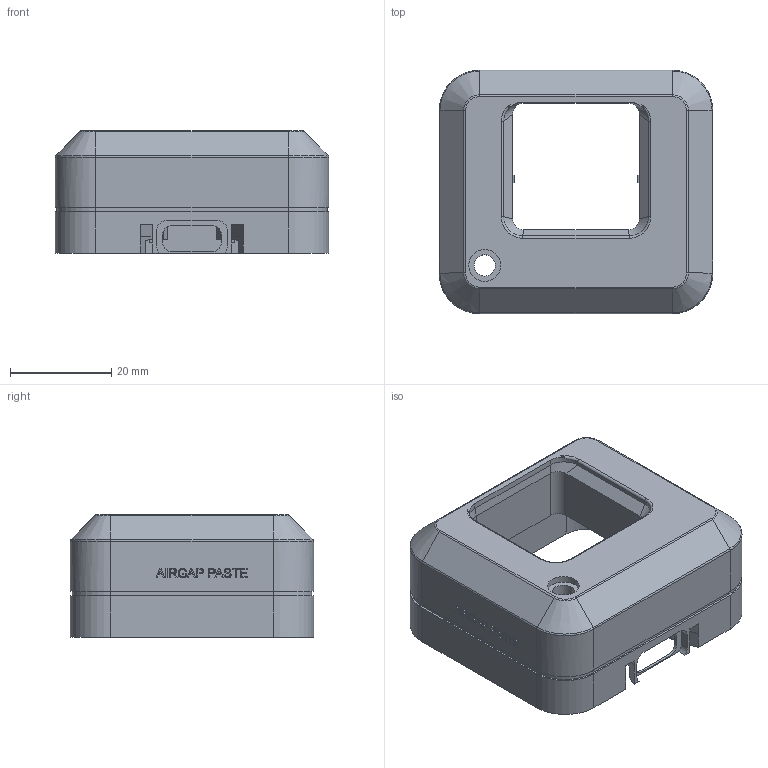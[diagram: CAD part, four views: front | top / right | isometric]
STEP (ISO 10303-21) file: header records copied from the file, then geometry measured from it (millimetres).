
FILE_DESCRIPTION(('Open CASCADE Model'),'2;1');
FILE_NAME('Open CASCADE Shape Model','2026-10-06T21:38:25',('Author'),( 'Open CASCADE'),'Open CASCADE STEP processor 7.9','Open CASCADE 7.9' ,'Unknown');
FILE_SCHEMA(('AUTOMOTIVE_DESIGN { 1 0 10303 214 1 1 1 1 }'));
Length unit declared in the file: millimetre
Products named in the file (1): Open CASCADE STEP translator 7.9 1
Bounding box: 54 x 48 x 24.2 mm (x, y, z)
Volume: 15976.6 mm3; surface area: 17178.1 mm2
Topology: 1 solids, 1 shells, 493 faces, 1322 edges, 857 vertices
Faces by surface type: plane 279, extrusion 100, cylinder 60, bspline 38, torus 8, cone 8
Full cylindrical faces by diameter (mm): 3.4 x4, 4.2 x1, 6.3 x1, 8.6 x1
Entity records: 33628 total; most frequent: CARTESIAN_POINT 9512, DIRECTION 3552, ORIENTED_EDGE 2644, PCURVE 2644, DEFINITIONAL_REPRESENTATION 2644, VECTOR 2469, LINE 2369, B_SPLINE_CURVE_WITH_KNOTS 1433
